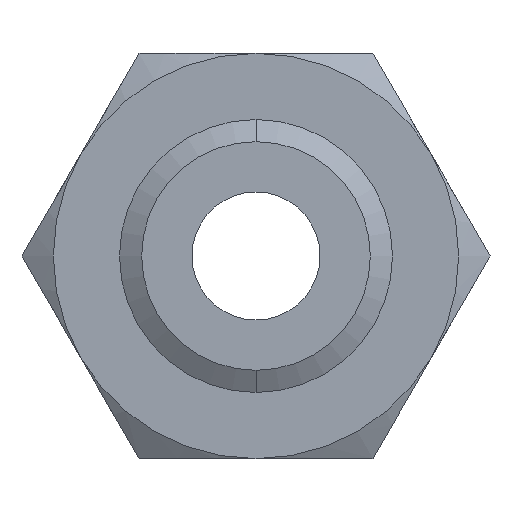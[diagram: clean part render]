
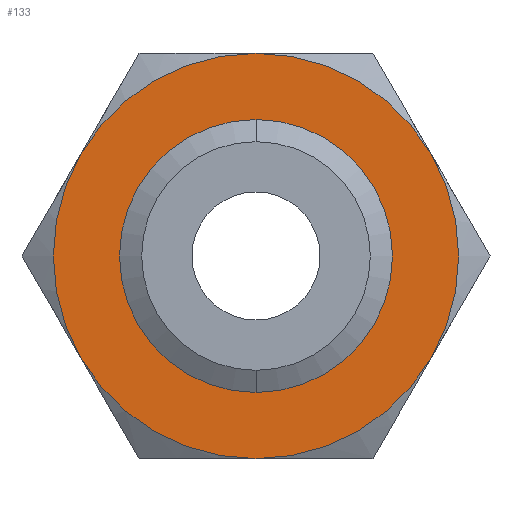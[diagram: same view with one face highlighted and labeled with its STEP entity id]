
A CAD part, front view. The second image highlights one B-rep face of the part: STEP entity #133.
In plain terms, the highlighted planar face has unit normal (0, -1, 0).
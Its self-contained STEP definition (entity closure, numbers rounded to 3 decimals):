
#97 = EDGE_CURVE ( 'NONE', #2343, #2345, #889, .T. ) ;
#98 = ORIENTED_EDGE ( 'NONE', *, *, #97, .F. ) ;
#99 = ORIENTED_EDGE ( 'NONE', *, *, #2342, .F. ) ;
#100 = EDGE_CURVE ( 'NONE', #399, #226, #942, .T. ) ;
#105 = ORIENTED_EDGE ( 'NONE', *, *, #100, .F. ) ;
#110 = ORIENTED_EDGE ( 'NONE', *, *, #230, .F. ) ;
#114 = EDGE_LOOP ( 'NONE', ( #99, #98 ) ) ;
#133 = ADVANCED_FACE ( 'NONE', ( #995, #994 ), #993, .F. ) ;
#160 = VERTEX_POINT ( 'NONE', #1010 ) ;
#201 = EDGE_CURVE ( 'NONE', #160, #203, #1115, .T. ) ;
#202 = ORIENTED_EDGE ( 'NONE', *, *, #201, .F. ) ;
#203 = VERTEX_POINT ( 'NONE', #1110 ) ;
#209 = VERTEX_POINT ( 'NONE', #1162 ) ;
#210 = EDGE_CURVE ( 'NONE', #203, #209, #1160, .T. ) ;
#211 = ORIENTED_EDGE ( 'NONE', *, *, #210, .F. ) ;
#212 = EDGE_CURVE ( 'NONE', #209, #405, #1155, .T. ) ;
#214 = ORIENTED_EDGE ( 'NONE', *, *, #212, .F. ) ;
#226 = VERTEX_POINT ( 'NONE', #1145 ) ;
#230 = EDGE_CURVE ( 'NONE', #226, #160, #1139, .T. ) ;
#399 = VERTEX_POINT ( 'NONE', #1461 ) ;
#404 = ORIENTED_EDGE ( 'NONE', *, *, #410, .F. ) ;
#405 = VERTEX_POINT ( 'NONE', #1457 ) ;
#410 = EDGE_CURVE ( 'NONE', #405, #399, #1451, .T. ) ;
#420 = EDGE_LOOP ( 'NONE', ( #404, #214, #211, #202, #110, #105 ) ) ;
#889 = CIRCLE ( 'NONE', #946, 26.804 ) ;
#938 = DIRECTION ( 'NONE',  ( 0., 0., 1. ) ) ;
#939 = DIRECTION ( 'NONE',  ( 0., 1., 0. ) ) ;
#940 = CARTESIAN_POINT ( 'NONE',  ( 0., 0., 0. ) ) ;
#941 = AXIS2_PLACEMENT_3D ( 'NONE', #940, #939, #938 ) ;
#942 = CIRCLE ( 'NONE', #941, 47.5 ) ;
#943 = DIRECTION ( 'NONE',  ( 0., 0., -1. ) ) ;
#944 = DIRECTION ( 'NONE',  ( 0., -1., 0. ) ) ;
#945 = CARTESIAN_POINT ( 'NONE',  ( 0., 0., 0. ) ) ;
#946 = AXIS2_PLACEMENT_3D ( 'NONE', #945, #944, #943 ) ;
#989 = DIRECTION ( 'NONE',  ( 0., 0., 1. ) ) ;
#990 = DIRECTION ( 'NONE',  ( 0., 1., 0. ) ) ;
#991 = CARTESIAN_POINT ( 'NONE',  ( 27.424, 0., -47.5 ) ) ;
#992 = AXIS2_PLACEMENT_3D ( 'NONE', #991, #990, #989 ) ;
#993 = PLANE ( 'NONE',  #992 ) ;
#994 = FACE_BOUND ( 'NONE', #114, .T. ) ;
#995 = FACE_OUTER_BOUND ( 'NONE', #420, .T. ) ;
#1010 = CARTESIAN_POINT ( 'NONE',  ( 0., 0., -47.5 ) ) ;
#1110 = CARTESIAN_POINT ( 'NONE',  ( -41.136, 0., -23.75 ) ) ;
#1111 = DIRECTION ( 'NONE',  ( 0., 0., 1. ) ) ;
#1112 = DIRECTION ( 'NONE',  ( 0., 1., 0. ) ) ;
#1113 = CARTESIAN_POINT ( 'NONE',  ( 0., 0., 0. ) ) ;
#1114 = AXIS2_PLACEMENT_3D ( 'NONE', #1113, #1112, #1111 ) ;
#1115 = CIRCLE ( 'NONE', #1114, 47.5 ) ;
#1135 = DIRECTION ( 'NONE',  ( 0., 0., 1. ) ) ;
#1136 = DIRECTION ( 'NONE',  ( 0., 1., 0. ) ) ;
#1137 = CARTESIAN_POINT ( 'NONE',  ( 0., 0., 0. ) ) ;
#1138 = AXIS2_PLACEMENT_3D ( 'NONE', #1137, #1136, #1135 ) ;
#1139 = CIRCLE ( 'NONE', #1138, 47.5 ) ;
#1145 = CARTESIAN_POINT ( 'NONE',  ( 41.136, 0., -23.75 ) ) ;
#1152 = DIRECTION ( 'NONE',  ( 0., 0., 1. ) ) ;
#1153 = DIRECTION ( 'NONE',  ( 0., 1., 0. ) ) ;
#1154 = AXIS2_PLACEMENT_3D ( 'NONE', #1161, #1153, #1152 ) ;
#1155 = CIRCLE ( 'NONE', #1154, 47.5 ) ;
#1156 = DIRECTION ( 'NONE',  ( 0., 0., 1. ) ) ;
#1157 = DIRECTION ( 'NONE',  ( 0., 1., 0. ) ) ;
#1158 = CARTESIAN_POINT ( 'NONE',  ( 0., 0., 0. ) ) ;
#1159 = AXIS2_PLACEMENT_3D ( 'NONE', #1158, #1157, #1156 ) ;
#1160 = CIRCLE ( 'NONE', #1159, 47.5 ) ;
#1161 = CARTESIAN_POINT ( 'NONE',  ( 0., 0., 0. ) ) ;
#1162 = CARTESIAN_POINT ( 'NONE',  ( -41.136, 0., 23.75 ) ) ;
#1447 = DIRECTION ( 'NONE',  ( 0., 0., 1. ) ) ;
#1448 = DIRECTION ( 'NONE',  ( 0., 1., 0. ) ) ;
#1449 = CARTESIAN_POINT ( 'NONE',  ( 0., 0., 0. ) ) ;
#1450 = AXIS2_PLACEMENT_3D ( 'NONE', #1449, #1448, #1447 ) ;
#1451 = CIRCLE ( 'NONE', #1450, 47.5 ) ;
#1457 = CARTESIAN_POINT ( 'NONE',  ( 0., 0., 47.5 ) ) ;
#1461 = CARTESIAN_POINT ( 'NONE',  ( 41.136, 0., 23.75 ) ) ;
#2183 = CARTESIAN_POINT ( 'NONE',  ( 0., 0., -26.804 ) ) ;
#2189 = CARTESIAN_POINT ( 'NONE',  ( 0., 0., 26.804 ) ) ;
#2190 = DIRECTION ( 'NONE',  ( 0., 0., -1. ) ) ;
#2191 = DIRECTION ( 'NONE',  ( 0., -1., 0. ) ) ;
#2192 = CARTESIAN_POINT ( 'NONE',  ( 0., 0., 0. ) ) ;
#2193 = AXIS2_PLACEMENT_3D ( 'NONE', #2192, #2191, #2190 ) ;
#2194 = CIRCLE ( 'NONE', #2193, 26.804 ) ;
#2342 = EDGE_CURVE ( 'NONE', #2345, #2343, #2194, .T. ) ;
#2343 = VERTEX_POINT ( 'NONE', #2189 ) ;
#2345 = VERTEX_POINT ( 'NONE', #2183 ) ;
